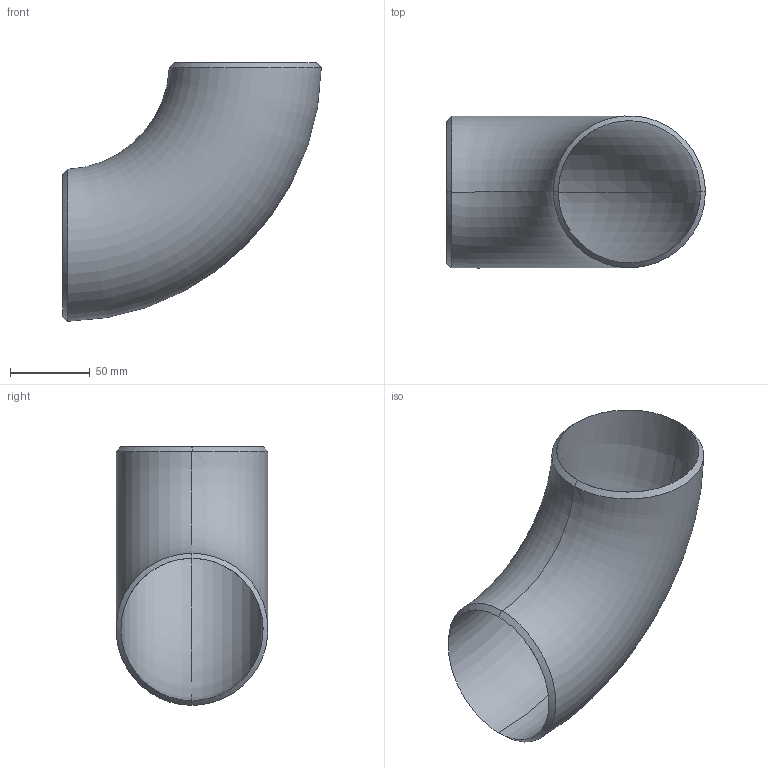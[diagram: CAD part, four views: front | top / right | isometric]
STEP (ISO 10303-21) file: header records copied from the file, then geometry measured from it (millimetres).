
FILE_DESCRIPTION (( 'STEP AP203' ), '1' );
FILE_NAME ('3D_R2651_3X10S_173421170_173425170.STEP', '2024-08-22T09:02:53', ( '' ), ( '' ), 'SwSTEP 2.0', 'SolidWorks 2024', '' );
FILE_SCHEMA (( 'CONFIG_CONTROL_DESIGN' ));
Length unit declared in the file: millimetre
Products named in the file (1): 3D_R2651_3X10S_173421170_173425170
Bounding box: 161.77 x 94.88 x 161.77 mm (x, y, z)
Volume: 153760 mm3; surface area: 104022.5 mm2
Topology: 1 solids, 1 shells, 10 faces, 26 edges, 16 vertices
Faces by surface type: bspline 4, torus 4, plane 2
Entity records: 3673 total; most frequent: CARTESIAN_POINT 3387, ORIENTED_EDGE 52, DIRECTION 30, EDGE_CURVE 26, B_SPLINE_CURVE_WITH_KNOTS 18, VERTEX_POINT 16, AXIS2_PLACEMENT_3D 15, ADVANCED_FACE 10
